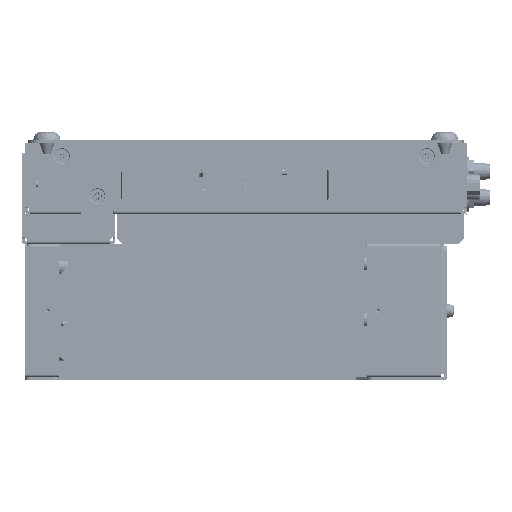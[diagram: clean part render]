
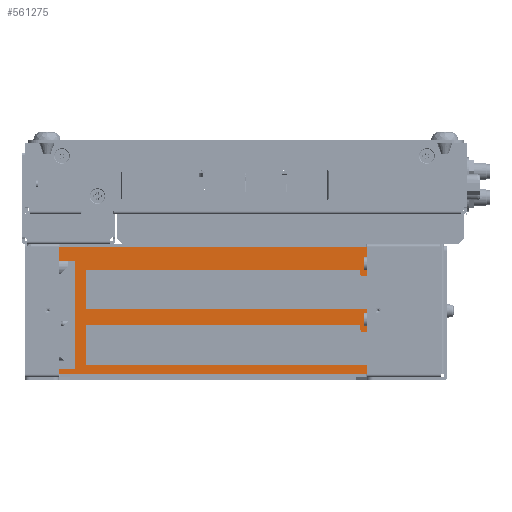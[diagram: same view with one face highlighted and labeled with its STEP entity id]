
A CAD part, left-side view. The second image highlights one B-rep face of the part: STEP entity #561275.
In plain terms, the highlighted planar face has unit normal (-1, 0, 0).
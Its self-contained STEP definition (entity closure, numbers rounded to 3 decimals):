
#140808=DIRECTION('',(0.,1.,0.));
#140809=VECTOR('',#140808,102.505);
#140810=CARTESIAN_POINT('',(-94.1,36.25,-72.67));
#140811=LINE('',#140810,#140809);
#140832=DIRECTION('',(0.,1.,0.));
#140833=VECTOR('',#140832,112.35);
#140834=CARTESIAN_POINT('',(-94.1,36.25,-76.));
#140835=LINE('',#140834,#140833);
#140870=DIRECTION('',(0.,-1.,0.));
#140871=VECTOR('',#140870,6.);
#140872=CARTESIAN_POINT('',(-94.1,148.6,-34.6));
#140873=LINE('',#140872,#140871);
#140874=DIRECTION('',(0.,0.,-1.));
#140875=VECTOR('',#140874,5.);
#140876=CARTESIAN_POINT('',(-94.1,148.6,-29.6));
#140877=LINE('',#140876,#140875);
#140878=DIRECTION('',(0.,1.,0.));
#140879=VECTOR('',#140878,112.35);
#140880=CARTESIAN_POINT('',(-94.1,36.25,-29.6));
#140881=LINE('',#140880,#140879);
#140882=DIRECTION('',(0.,0.,1.));
#140883=VECTOR('',#140882,10.75);
#140884=CARTESIAN_POINT('',(-94.1,36.25,-40.35));
#140885=LINE('',#140884,#140883);
#140886=DIRECTION('',(0.,-1.,0.));
#140887=VECTOR('',#140886,1.505);
#140888=CARTESIAN_POINT('',(-94.1,37.755,-40.35));
#140889=LINE('',#140888,#140887);
#140890=CARTESIAN_POINT('',(-94.1,37.755,-39.35));
#140891=DIRECTION('',(-1.,0.,0.));
#140892=DIRECTION('',(0.,1.,0.));
#140893=AXIS2_PLACEMENT_3D('',#140890,#140891,#140892);
#140895=DIRECTION('',(0.,0.,1.));
#140896=VECTOR('',#140895,8.32);
#140897=CARTESIAN_POINT('',(-94.1,36.25,-60.67));
#140898=LINE('',#140897,#140896);
#140899=CARTESIAN_POINT('',(-94.1,37.755,-59.67));
#140900=DIRECTION('',(-1.,0.,0.));
#140901=DIRECTION('',(0.,1.,0.));
#140902=AXIS2_PLACEMENT_3D('',#140899,#140900,#140901);
#140904=DIRECTION('',(0.,0.,1.));
#140905=VECTOR('',#140904,3.33);
#140906=CARTESIAN_POINT('',(-94.1,36.25,-76.));
#140907=LINE('',#140906,#140905);
#140908=DIRECTION('',(0.,0.,-1.));
#140909=VECTOR('',#140908,2.);
#140910=CARTESIAN_POINT('',(-94.1,148.6,-74.));
#140911=LINE('',#140910,#140909);
#141677=DIRECTION('',(0.,1.,0.));
#141678=VECTOR('',#141677,102.505);
#141679=CARTESIAN_POINT('',(-94.1,36.25,-52.35));
#141680=LINE('',#141679,#141678);
#141701=DIRECTION('',(0.,-1.,0.));
#141702=VECTOR('',#141701,1.505);
#141703=CARTESIAN_POINT('',(-94.1,37.755,-60.67));
#141704=LINE('',#141703,#141702);
#141739=DIRECTION('',(0.,0.,-1.));
#141740=VECTOR('',#141739,1.5);
#141741=CARTESIAN_POINT('',(-94.1,38.755,-58.17));
#141742=LINE('',#141741,#141740);
#141751=DIRECTION('',(0.,-1.,0.));
#141752=VECTOR('',#141751,100.);
#141753=CARTESIAN_POINT('',(-94.1,138.755,-58.17));
#141754=LINE('',#141753,#141752);
#141763=DIRECTION('',(0.,0.,1.));
#141764=VECTOR('',#141763,14.5);
#141765=CARTESIAN_POINT('',(-94.1,138.755,-72.67));
#141766=LINE('',#141765,#141764);
#142053=DIRECTION('',(0.,0.,-1.));
#142054=VECTOR('',#142053,1.5);
#142055=CARTESIAN_POINT('',(-94.1,38.755,-37.85));
#142056=LINE('',#142055,#142054);
#142061=DIRECTION('',(0.,-1.,0.));
#142062=VECTOR('',#142061,100.);
#142063=CARTESIAN_POINT('',(-94.1,138.755,-37.85));
#142064=LINE('',#142063,#142062);
#142073=DIRECTION('',(0.,0.,1.));
#142074=VECTOR('',#142073,14.5);
#142075=CARTESIAN_POINT('',(-94.1,138.755,-52.35));
#142076=LINE('',#142075,#142074);
#142309=DIRECTION('',(0.,0.,-1.));
#142310=VECTOR('',#142309,39.4);
#142311=CARTESIAN_POINT('',(-94.1,142.6,-34.6));
#142312=LINE('',#142311,#142310);
#142329=DIRECTION('',(0.,1.,0.));
#142330=VECTOR('',#142329,6.);
#142331=CARTESIAN_POINT('',(-94.1,142.6,-74.));
#142332=LINE('',#142331,#142330);
#280916=CARTESIAN_POINT('',(-94.1,142.6,-34.6));
#280917=VERTEX_POINT('',#280916);
#280918=CARTESIAN_POINT('',(-94.1,148.6,-34.6));
#280919=VERTEX_POINT('',#280918);
#280929=CARTESIAN_POINT('',(-94.1,148.6,-29.6));
#280931=VERTEX_POINT('',#280929);
#280940=CARTESIAN_POINT('',(-94.1,36.25,-29.6));
#280941=VERTEX_POINT('',#280940);
#280952=CARTESIAN_POINT('',(-94.1,148.6,-76.));
#280953=VERTEX_POINT('',#280952);
#280954=CARTESIAN_POINT('',(-94.1,148.6,-74.));
#280955=VERTEX_POINT('',#280954);
#281042=CARTESIAN_POINT('',(-94.1,36.25,-40.35));
#281043=VERTEX_POINT('',#281042);
#281052=CARTESIAN_POINT('',(-94.1,36.25,-52.35));
#281053=VERTEX_POINT('',#281052);
#281054=CARTESIAN_POINT('',(-94.1,36.25,-60.67));
#281055=VERTEX_POINT('',#281054);
#281064=CARTESIAN_POINT('',(-94.1,36.25,-72.67));
#281065=VERTEX_POINT('',#281064);
#281066=CARTESIAN_POINT('',(-94.1,36.25,-76.));
#281067=VERTEX_POINT('',#281066);
#281112=CARTESIAN_POINT('',(-94.1,37.755,-40.35));
#281113=VERTEX_POINT('',#281112);
#281114=CARTESIAN_POINT('',(-94.1,38.755,-39.35));
#281115=VERTEX_POINT('',#281114);
#281116=CARTESIAN_POINT('',(-94.1,38.755,-37.85));
#281117=VERTEX_POINT('',#281116);
#281118=CARTESIAN_POINT('',(-94.1,138.755,-37.85));
#281119=VERTEX_POINT('',#281118);
#281120=CARTESIAN_POINT('',(-94.1,138.755,-52.35));
#281121=VERTEX_POINT('',#281120);
#281122=CARTESIAN_POINT('',(-94.1,37.755,-60.67));
#281123=VERTEX_POINT('',#281122);
#281124=CARTESIAN_POINT('',(-94.1,38.755,-59.67));
#281125=VERTEX_POINT('',#281124);
#281126=CARTESIAN_POINT('',(-94.1,38.755,-58.17));
#281127=VERTEX_POINT('',#281126);
#281128=CARTESIAN_POINT('',(-94.1,138.755,-58.17));
#281129=VERTEX_POINT('',#281128);
#281130=CARTESIAN_POINT('',(-94.1,138.755,-72.67));
#281131=VERTEX_POINT('',#281130);
#281132=CARTESIAN_POINT('',(-94.1,142.6,-74.));
#281133=VERTEX_POINT('',#281132);
#561229=CARTESIAN_POINT('',(-94.1,92.425,-52.8));
#561230=DIRECTION('',(1.,0.,0.));
#561231=DIRECTION('',(0.,1.,0.));
#561232=AXIS2_PLACEMENT_3D('',#561229,#561230,#561231);
#561233=PLANE('',#561232);
#561234=ORIENTED_EDGE('',*,*,#560903,.F.);
#561235=ORIENTED_EDGE('',*,*,#560738,.F.);
#561237=ORIENTED_EDGE('',*,*,#561236,.F.);
#561239=ORIENTED_EDGE('',*,*,#561238,.F.);
#561241=ORIENTED_EDGE('',*,*,#561240,.F.);
#561243=ORIENTED_EDGE('',*,*,#561242,.F.);
#561245=ORIENTED_EDGE('',*,*,#561244,.F.);
#561247=ORIENTED_EDGE('',*,*,#561246,.F.);
#561249=ORIENTED_EDGE('',*,*,#561248,.F.);
#561251=ORIENTED_EDGE('',*,*,#561250,.F.);
#561253=ORIENTED_EDGE('',*,*,#561252,.F.);
#561255=ORIENTED_EDGE('',*,*,#561254,.F.);
#561257=ORIENTED_EDGE('',*,*,#561256,.F.);
#561259=ORIENTED_EDGE('',*,*,#561258,.F.);
#561261=ORIENTED_EDGE('',*,*,#561260,.F.);
#561263=ORIENTED_EDGE('',*,*,#561262,.F.);
#561264=ORIENTED_EDGE('',*,*,#561144,.F.);
#561266=ORIENTED_EDGE('',*,*,#561265,.F.);
#561267=ORIENTED_EDGE('',*,*,#561188,.T.);
#561268=ORIENTED_EDGE('',*,*,#560727,.F.);
#561270=ORIENTED_EDGE('',*,*,#561269,.F.);
#561272=ORIENTED_EDGE('',*,*,#561271,.F.);
#561273=EDGE_LOOP('',(#561234,#561235,#561237,#561239,#561241,#561243,#561245,
#561247,#561249,#561251,#561253,#561255,#561257,#561259,#561261,#561263,#561264,
#561266,#561267,#561268,#561270,#561272));
#561274=FACE_OUTER_BOUND('',#561273,.F.);
#561275=ADVANCED_FACE('',(#561274),#561233,.F.);
#140894=CIRCLE('',#140893,1.);
#140903=CIRCLE('',#140902,1.);
#560727=EDGE_CURVE('',#280955,#280953,#140911,.T.);
#560738=EDGE_CURVE('',#280931,#280919,#140877,.T.);
#560903=EDGE_CURVE('',#280919,#280917,#140873,.T.);
#561144=EDGE_CURVE('',#281065,#281131,#140811,.T.);
#561188=EDGE_CURVE('',#281067,#280953,#140835,.T.);
#561236=EDGE_CURVE('',#280941,#280931,#140881,.T.);
#561238=EDGE_CURVE('',#281043,#280941,#140885,.T.);
#561240=EDGE_CURVE('',#281113,#281043,#140889,.T.);
#561242=EDGE_CURVE('',#281115,#281113,#140894,.T.);
#561244=EDGE_CURVE('',#281117,#281115,#142056,.T.);
#561246=EDGE_CURVE('',#281119,#281117,#142064,.T.);
#561248=EDGE_CURVE('',#281121,#281119,#142076,.T.);
#561250=EDGE_CURVE('',#281053,#281121,#141680,.T.);
#561252=EDGE_CURVE('',#281055,#281053,#140898,.T.);
#561254=EDGE_CURVE('',#281123,#281055,#141704,.T.);
#561256=EDGE_CURVE('',#281125,#281123,#140903,.T.);
#561258=EDGE_CURVE('',#281127,#281125,#141742,.T.);
#561260=EDGE_CURVE('',#281129,#281127,#141754,.T.);
#561262=EDGE_CURVE('',#281131,#281129,#141766,.T.);
#561265=EDGE_CURVE('',#281067,#281065,#140907,.T.);
#561269=EDGE_CURVE('',#281133,#280955,#142332,.T.);
#561271=EDGE_CURVE('',#280917,#281133,#142312,.T.);
